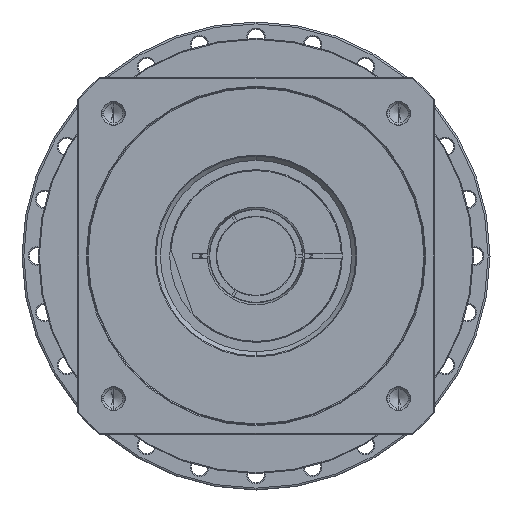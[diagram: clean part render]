
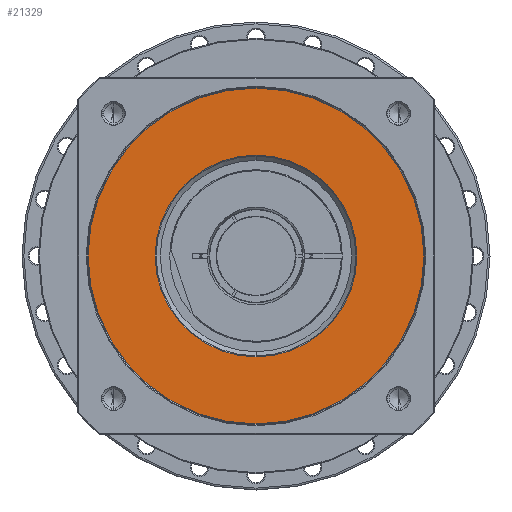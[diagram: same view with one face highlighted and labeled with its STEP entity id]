
A CAD part, left-side view. The second image highlights one B-rep face of the part: STEP entity #21329.
In plain terms, the highlighted planar face has unit normal (-1, 0, 0) as drawn and (0, 0, 1) by its records, which use the part's own axes.
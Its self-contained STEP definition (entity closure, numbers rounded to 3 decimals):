
#20014=CARTESIAN_POINT('',(0.,0.,36.));
#20015=DIRECTION('',(0.,0.,-1.));
#20016=DIRECTION('',(0.,-1.,0.));
#20017=AXIS2_PLACEMENT_3D('',#20014,#20015,#20016);
#20019=CARTESIAN_POINT('',(0.,0.,36.));
#20020=DIRECTION('',(0.,0.,-1.));
#20021=DIRECTION('',(0.,1.,0.));
#20022=AXIS2_PLACEMENT_3D('',#20019,#20020,#20021);
#20024=CARTESIAN_POINT('',(0.,0.,
36.));
#20025=DIRECTION('',(0.,0.,-1.));
#20026=DIRECTION('',(1.,0.,0.));
#20027=AXIS2_PLACEMENT_3D('',#20024,#20025,#20026);
#20029=CARTESIAN_POINT('',(0.,0.,36.));
#20030=DIRECTION('',(0.,0.,-1.));
#20031=DIRECTION('',(-1.,0.,0.));
#20032=AXIS2_PLACEMENT_3D('',#20029,#20030,#20031);
#20613=CARTESIAN_POINT('',(0.,-89.5,36.));
#20614=CARTESIAN_POINT('',(0.,89.5,36.));
#20615=VERTEX_POINT('',#20613);
#20616=VERTEX_POINT('',#20614);
#20649=CARTESIAN_POINT('',(53.75,0.,36.));
#20650=CARTESIAN_POINT('',(-53.75,0.,
36.));
#20651=VERTEX_POINT('',#20649);
#20652=VERTEX_POINT('',#20650);
#21313=CARTESIAN_POINT('',(0.,0.,36.));
#21314=DIRECTION('',(0.,0.,-1.));
#21315=DIRECTION('',(0.,-1.,0.));
#21316=AXIS2_PLACEMENT_3D('',#21313,#21314,#21315);
#21317=PLANE('',#21316);
#21319=ORIENTED_EDGE('',*,*,#21318,.T.);
#21320=ORIENTED_EDGE('',*,*,#21303,.T.);
#21321=EDGE_LOOP('',(#21319,#21320));
#21322=FACE_OUTER_BOUND('',#21321,.F.);
#21324=ORIENTED_EDGE('',*,*,#21323,.F.);
#21326=ORIENTED_EDGE('',*,*,#21325,.F.);
#21327=EDGE_LOOP('',(#21324,#21326));
#21328=FACE_BOUND('',#21327,.F.);
#21329=ADVANCED_FACE('',(#21322,#21328),#21317,.F.);
#20018=CIRCLE('',#20017,89.5);
#20023=CIRCLE('',#20022,89.5);
#20028=CIRCLE('',#20027,53.75);
#20033=CIRCLE('',#20032,53.75);
#21303=EDGE_CURVE('',#20616,#20615,#20023,.T.);
#21318=EDGE_CURVE('',#20615,#20616,#20018,.T.);
#21323=EDGE_CURVE('',#20651,#20652,#20028,.T.);
#21325=EDGE_CURVE('',#20652,#20651,#20033,.T.);
